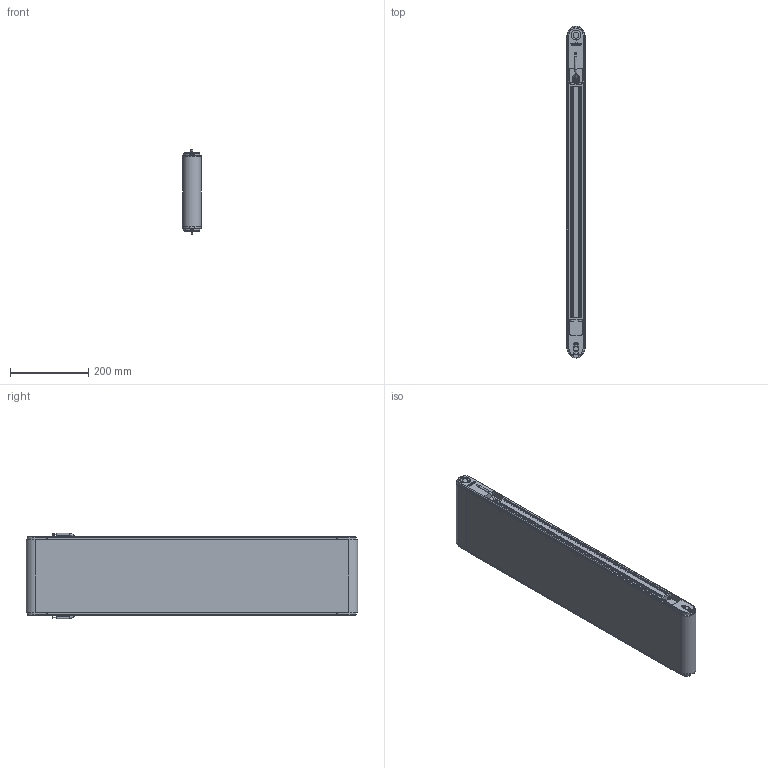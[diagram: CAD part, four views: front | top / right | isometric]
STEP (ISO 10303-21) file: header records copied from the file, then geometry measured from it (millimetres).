
FILE_DESCRIPTION(/* description */ (''),/* implementation_level */ '2;1');
FILE_NAME(/* name */ 'G:\DATEN\CAD\Förderband\Marketing\3D-Modelle (Standard)\FR-40-200\FR-40-200-800-K.stp',/* time_stamp */ '2019-05-08T09:21:16+02:00',/* author */ ('melanie.ochs'),/* organization */ (''),/* preprocessor_version */ 'ST-DEVELOPER v17',/* originating_system */ 'Autodesk Inventor 2019',/* authorisation */ '');
FILE_SCHEMA (('CONFIG_CONTROL_DESIGN'));
Length unit declared in the file: centimetre
Products named in the file (1): FR-40-200-800-K
Bounding box: 46.6 x 846.6 x 217.07 mm (x, y, z)
Volume: 2810074 mm3; surface area: 1125610.9 mm2
Topology: 7 solids, 25 shells, 1130 faces, 3051 edges, 2017 vertices
Faces by surface type: plane 561, cylinder 330, bspline 124, cone 77, torus 38
Full cylindrical faces by diameter (mm): 2 x4, 4 x6, 4.3 x4, 4.917 x1, 5 x14, 5.5 x8, 6 x4, 6.647 x2, 8 x4, 8.3 x6, 8.5 x8, 8.773 x2, 10 x2, 11 x2, 12 x3, 15 x2, 20 x4, 25 x2, 28 x4
Entity records: 38330 total; most frequent: CARTESIAN_POINT 9262, ORIENTED_EDGE 6078, DIRECTION 5523, EDGE_CURVE 3039, VERTEX_POINT 2017, AXIS2_PLACEMENT_3D 1955, LINE 1613, VECTOR 1613
